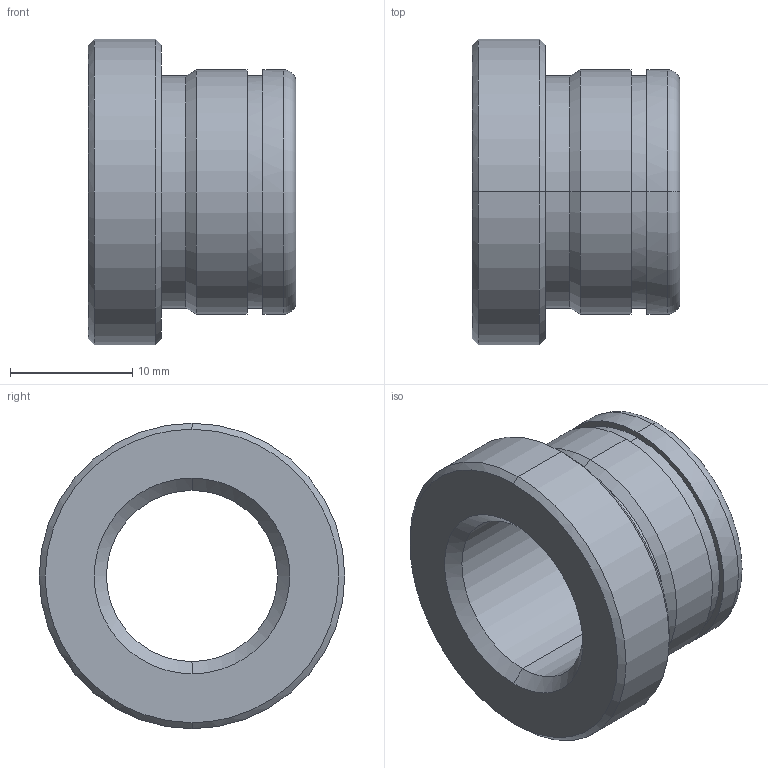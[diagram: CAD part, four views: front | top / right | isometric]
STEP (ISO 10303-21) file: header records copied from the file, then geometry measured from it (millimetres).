
FILE_DESCRIPTION(('CATIA V5 STEP Exchange'),'2;1');
FILE_NAME('C:\Users\Utente\Desktop\IO LAVORO\3D X SITO CF\X SITO\PLASTICA\553\553-14X17.stp','2021-05-21T18:28:31+00:00',('none'),('none'),'CATIA Version 5 Release 20 GA (IN-10)','CATIA V5 STEP AP203','none');
FILE_SCHEMA(('CONFIG_CONTROL_DESIGN'));
Length unit declared in the file: millimetre
Products named in the file (1): 553-14x17
Bounding box: 17 x 25 x 25 mm (x, y, z)
Volume: 3591.7 mm3; surface area: 2546.5 mm2
Topology: 1 solids, 1 shells, 29 faces, 92 edges, 68 vertices
Faces by surface type: cylinder 12, cone 8, plane 5, torus 4
Entity records: 1222 total; most frequent: CARTESIAN_POINT 368, ORIENTED_EDGE 184, DIRECTION 136, EDGE_CURVE 92, AXIS2_PLACEMENT_3D 88, VERTEX_POINT 68, CIRCLE 58, EDGE_LOOP 34
